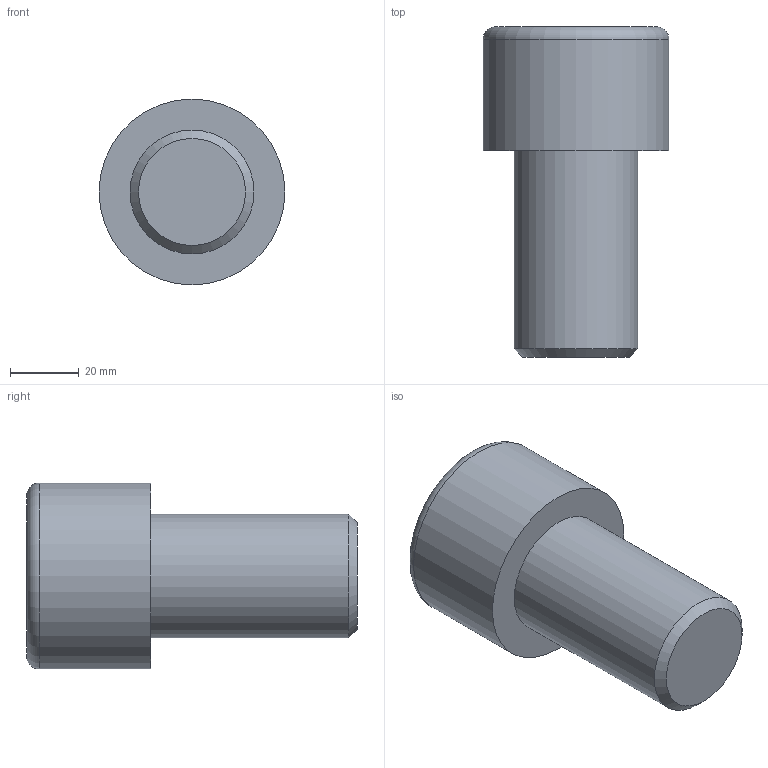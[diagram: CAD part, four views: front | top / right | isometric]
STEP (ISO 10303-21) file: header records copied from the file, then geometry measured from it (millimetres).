
FILE_DESCRIPTION(/* description */ (''),/* implementation_level */ '2;1');
FILE_NAME(/* name */ 'C:\Users\D\Documents\Inventor\各種小物\JIS\JIS B 1176 六角穴付きボルト\M36x60.stp',/* time_stamp */ '2022-05-09T19:04:15+09:00',/* author */ ('D'),/* organization */ (''),/* preprocessor_version */ 'ST-DEVELOPER v18',/* originating_system */ 'Autodesk Inventor 2020',/* authorisation */ '');
FILE_SCHEMA (('AUTOMOTIVE_DESIGN { 1 0 10303 214 3 1 1 }'));
Length unit declared in the file: millimetre
Products named in the file (1): M1.6x2.5
Bounding box: 54 x 96 x 54 mm (x, y, z)
Volume: 128516 mm3; surface area: 18984.4 mm2
Topology: 1 solids, 1 shells, 14 faces, 33 edges, 22 vertices
Faces by surface type: plane 9, cone 2, cylinder 2, torus 1
Full cylindrical faces by diameter (mm): 36 x1, 54 x1
Entity records: 435 total; most frequent: CARTESIAN_POINT 83, ORIENTED_EDGE 64, DIRECTION 64, EDGE_CURVE 32, AXIS2_PLACEMENT_3D 24, VERTEX_POINT 22, EDGE_LOOP 16, LINE 16
